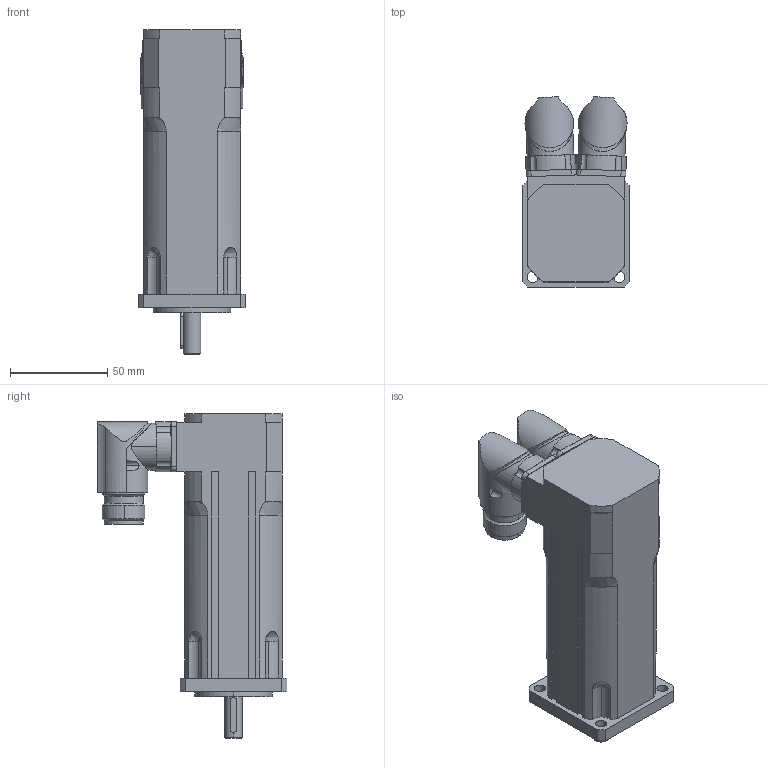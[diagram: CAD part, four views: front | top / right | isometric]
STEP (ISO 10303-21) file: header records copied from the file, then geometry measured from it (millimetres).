
FILE_DESCRIPTION(('STEP AP203'),'2;1');
FILE_NAME('MT2-0080.stp','2006-08-28T20:01:41',(''),(''),'2005.2.102','THINKDESIGN','');
FILE_SCHEMA(('CONFIG_CONTROL_DESIGN'));
Length unit declared in the file: millimetre
Bounding box: 55 x 97.7 x 167 mm (x, y, z)
Volume: 391882.9 mm3; surface area: 55295.8 mm2
Topology: 3 solids, 3 shells, 262 faces, 694 edges, 448 vertices
Faces by surface type: cylinder 116, plane 102, bspline 44
Entity records: 9879 total; most frequent: CARTESIAN_POINT 3284, ORIENTED_EDGE 1388, DIRECTION 1362, EDGE_CURVE 694, AXIS2_PLACEMENT_3D 520, VERTEX_POINT 448, VECTOR 322, LINE 322
